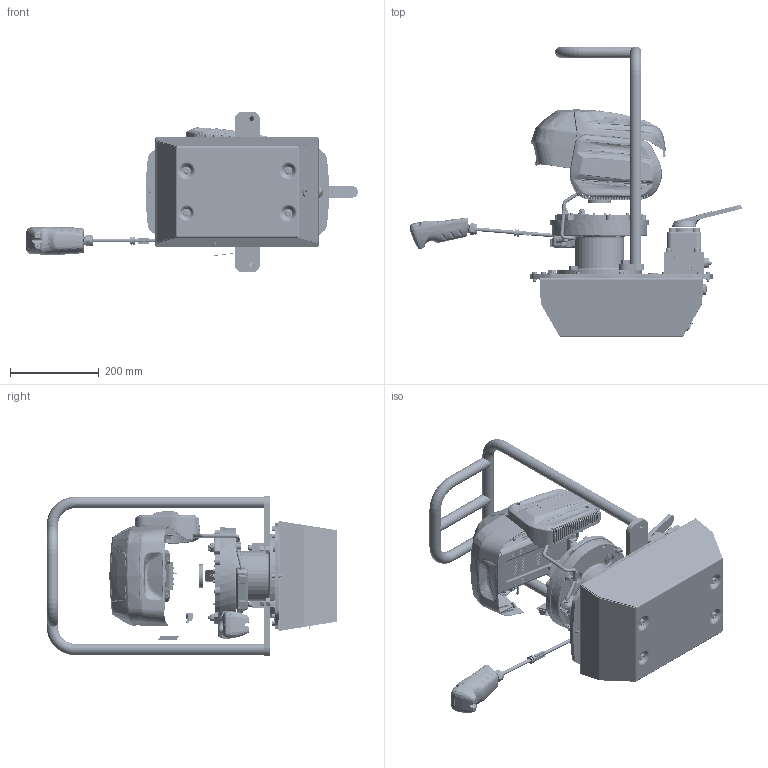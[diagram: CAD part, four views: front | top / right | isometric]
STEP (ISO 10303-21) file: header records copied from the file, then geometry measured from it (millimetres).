
FILE_DESCRIPTION((''),'2;1');
FILE_NAME('ZC3308JB','2020-03-25T09:36:29',('mike.ward'),(''),'CREO PARAMETRIC BY PTC INC, 2018400','CREO PARAMETRIC BY PTC INC, 2018400','');
FILE_SCHEMA(('CONFIG_CONTROL_DESIGN'));
Products named in the file (1): ZC3308JB
Bounding box: 746.4 x 653.61 x 361.95 mm (x, y, z)
Volume: 4840218.5 mm3; surface area: 2331628.1 mm2
Topology: 39 solids, 46 shells, 27002 faces, 74653 edges, 47978 vertices
Faces by surface type: plane 11364, cylinder 7902, bspline 4848, cone 1387, torus 967, sphere 283, extrusion 232, revolution 19
Entity records: 1196701 total; most frequent: CARTESIAN_POINT 570022, ORIENTED_EDGE 148556, DIRECTION 102830, EDGE_CURVE 74278, VERTEX_POINT 47977, VECTOR 35261, LINE 35029, AXIS2_PLACEMENT_3D 33775
